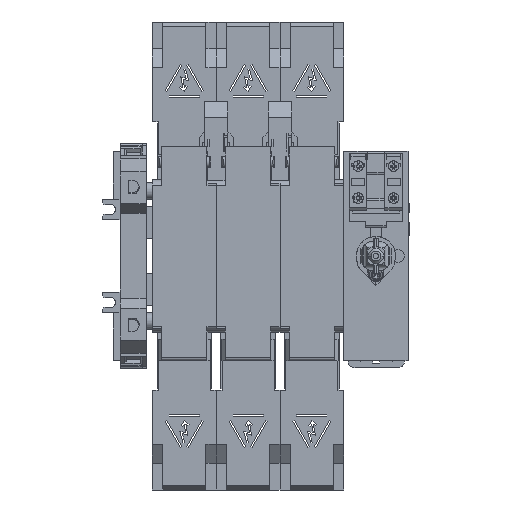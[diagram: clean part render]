
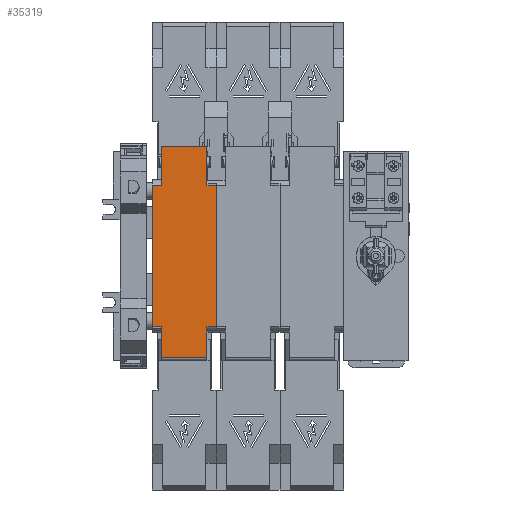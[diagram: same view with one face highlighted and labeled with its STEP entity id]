
A CAD part, front view. The second image highlights one B-rep face of the part: STEP entity #35319.
In plain terms, the highlighted planar face has unit normal (0, -1, 0).
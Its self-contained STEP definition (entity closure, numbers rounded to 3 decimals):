
#33982=DIRECTION('',(0.,0.,-1.));
#33983=VECTOR('',#33982,21.5);
#33984=CARTESIAN_POINT('',(-583.8,-144.05,93.85));
#33985=LINE('',#33984,#33983);
#34086=DIRECTION('',(0.,0.,1.));
#34087=VECTOR('',#34086,21.5);
#34088=CARTESIAN_POINT('',(-609.4,-144.05,72.35));
#34089=LINE('',#34088,#34087);
#34098=DIRECTION('',(-1.,0.,0.));
#34099=VECTOR('',#34098,25.6);
#34100=CARTESIAN_POINT('',(-583.8,-144.05,93.85));
#34101=LINE('',#34100,#34099);
#34106=DIRECTION('',(1.,0.,0.));
#34107=VECTOR('',#34106,5.2);
#34108=CARTESIAN_POINT('',(-583.8,-144.05,72.35));
#34109=LINE('',#34108,#34107);
#34122=DIRECTION('',(0.,0.,-1.));
#34123=VECTOR('',#34122,80.);
#34124=CARTESIAN_POINT('',(-578.6,-144.05,72.35));
#34125=LINE('',#34124,#34123);
#34250=DIRECTION('',(0.,0.,1.));
#34251=VECTOR('',#34250,80.);
#34252=CARTESIAN_POINT('',(-614.6,-144.05,-7.65));
#34253=LINE('',#34252,#34251);
#34266=DIRECTION('',(-1.,0.,0.));
#34267=VECTOR('',#34266,5.2);
#34268=CARTESIAN_POINT('',(-609.4,-144.05,-7.65));
#34269=LINE('',#34268,#34267);
#34282=DIRECTION('',(0.,0.,1.));
#34283=VECTOR('',#34282,17.25);
#34284=CARTESIAN_POINT('',(-609.4,-144.05,-24.9));
#34285=LINE('',#34284,#34283);
#34449=DIRECTION('',(-1.,0.,0.));
#34450=VECTOR('',#34449,25.6);
#34451=CARTESIAN_POINT('',(-583.8,-144.05,-24.9));
#34452=LINE('',#34451,#34450);
#34462=DIRECTION('',(0.,0.,-1.));
#34463=VECTOR('',#34462,17.25);
#34464=CARTESIAN_POINT('',(-583.8,-144.05,-7.65));
#34465=LINE('',#34464,#34463);
#34490=DIRECTION('',(-1.,0.,0.));
#34491=VECTOR('',#34490,5.2);
#34492=CARTESIAN_POINT('',(-578.6,-144.05,-7.65));
#34493=LINE('',#34492,#34491);
#34824=DIRECTION('',(1.,0.,0.));
#34825=VECTOR('',#34824,5.2);
#34826=CARTESIAN_POINT('',(-614.6,-144.05,72.35));
#34827=LINE('',#34826,#34825);
#34856=CARTESIAN_POINT('',(-583.8,-144.05,93.85));
#34857=VERTEX_POINT('',#34856);
#34858=CARTESIAN_POINT('',(-583.8,-144.05,72.35));
#34859=VERTEX_POINT('',#34858);
#34892=CARTESIAN_POINT('',(-609.4,-144.05,-24.9));
#34893=VERTEX_POINT('',#34892);
#34894=CARTESIAN_POINT('',(-609.4,-144.05,-7.65));
#34895=VERTEX_POINT('',#34894);
#34914=CARTESIAN_POINT('',(-609.4,-144.05,93.85));
#34915=VERTEX_POINT('',#34914);
#34916=CARTESIAN_POINT('',(-609.4,-144.05,72.35));
#34917=VERTEX_POINT('',#34916);
#34918=CARTESIAN_POINT('',(-614.6,-144.05,72.35));
#34919=VERTEX_POINT('',#34918);
#34920=CARTESIAN_POINT('',(-614.6,-144.05,-7.65));
#34921=VERTEX_POINT('',#34920);
#34922=CARTESIAN_POINT('',(-583.8,-144.05,-24.9));
#34923=VERTEX_POINT('',#34922);
#34924=CARTESIAN_POINT('',(-583.8,-144.05,-7.65));
#34925=VERTEX_POINT('',#34924);
#34926=CARTESIAN_POINT('',(-578.6,-144.05,-7.65));
#34927=VERTEX_POINT('',#34926);
#34928=CARTESIAN_POINT('',(-578.6,-144.05,72.35));
#34929=VERTEX_POINT('',#34928);
#35291=CARTESIAN_POINT('',(-609.4,-144.05,92.6));
#35292=DIRECTION('',(0.,-1.,0.));
#35293=DIRECTION('',(0.,0.,1.));
#35294=AXIS2_PLACEMENT_3D('',#35291,#35292,#35293);
#35295=PLANE('',#35294);
#35296=ORIENTED_EDGE('',*,*,#35153,.T.);
#35298=ORIENTED_EDGE('',*,*,#35297,.T.);
#35300=ORIENTED_EDGE('',*,*,#35299,.T.);
#35302=ORIENTED_EDGE('',*,*,#35301,.T.);
#35304=ORIENTED_EDGE('',*,*,#35303,.T.);
#35306=ORIENTED_EDGE('',*,*,#35305,.T.);
#35308=ORIENTED_EDGE('',*,*,#35307,.T.);
#35310=ORIENTED_EDGE('',*,*,#35309,.T.);
#35312=ORIENTED_EDGE('',*,*,#35311,.T.);
#35314=ORIENTED_EDGE('',*,*,#35313,.T.);
#35315=ORIENTED_EDGE('',*,*,#35279,.T.);
#35316=ORIENTED_EDGE('',*,*,#35266,.F.);
#35317=EDGE_LOOP('',(#35296,#35298,#35300,#35302,#35304,#35306,#35308,#35310,
#35312,#35314,#35315,#35316));
#35318=FACE_OUTER_BOUND('',#35317,.F.);
#35319=ADVANCED_FACE('',(#35318),#35295,.T.);
#35153=EDGE_CURVE('',#34857,#34859,#33985,.T.);
#35266=EDGE_CURVE('',#34857,#34915,#34101,.T.);
#35279=EDGE_CURVE('',#34917,#34915,#34089,.T.);
#35297=EDGE_CURVE('',#34859,#34929,#34109,.T.);
#35299=EDGE_CURVE('',#34929,#34927,#34125,.T.);
#35301=EDGE_CURVE('',#34927,#34925,#34493,.T.);
#35303=EDGE_CURVE('',#34925,#34923,#34465,.T.);
#35305=EDGE_CURVE('',#34923,#34893,#34452,.T.);
#35307=EDGE_CURVE('',#34893,#34895,#34285,.T.);
#35309=EDGE_CURVE('',#34895,#34921,#34269,.T.);
#35311=EDGE_CURVE('',#34921,#34919,#34253,.T.);
#35313=EDGE_CURVE('',#34919,#34917,#34827,.T.);
